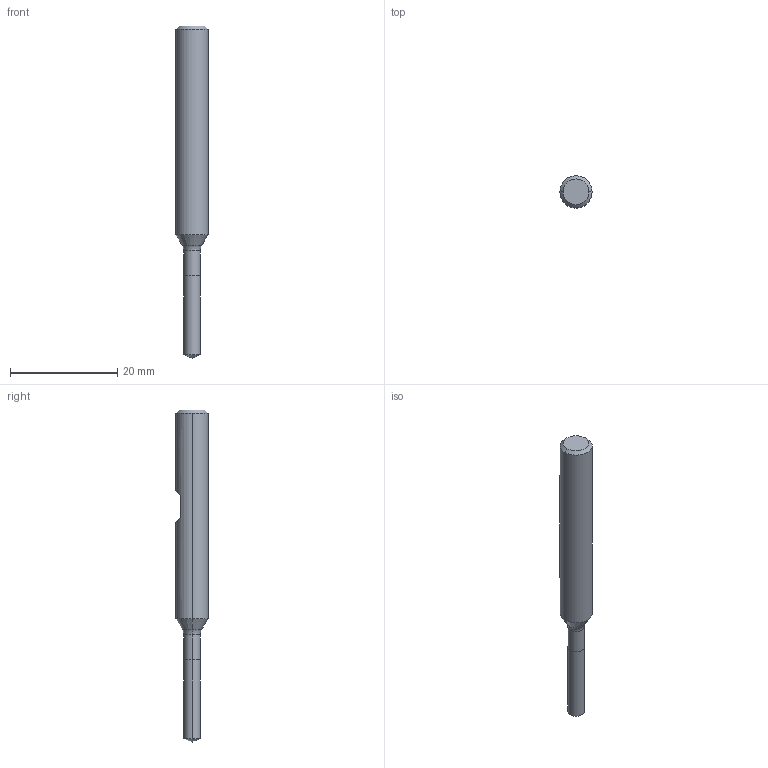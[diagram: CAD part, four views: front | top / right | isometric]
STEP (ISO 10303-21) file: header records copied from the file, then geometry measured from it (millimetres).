
FILE_DESCRIPTION (( 'STEP AP214' ), '1' );
FILE_NAME ('843.031.10_3D-model.step', '2022-02-24T02:52:13', ( '' ), ( '' ), 'SwSTEP 2.0', 'SolidWorks 2020', '' );
FILE_SCHEMA (( 'AUTOMOTIVE_DESIGN' ));
Length unit declared in the file: millimetre
Products named in the file (3): NOCUT-3D^Baugr6; 843.031.10_3D-model; CUT-3D^Baugr6
Assembly tree (2 placements, depth 2):
  843.031.10_3D-model
    CUT-3D^Baugr6
    NOCUT-3D^Baugr6
Bounding box: 6 x 6 x 62 mm (x, y, z)
Volume: 1279.3 mm3; surface area: 1013.6 mm2
Topology: 2 solids, 2 shells, 20 faces, 38 edges, 21 vertices
Faces by surface type: cone 6, cylinder 6, plane 6, torus 2
Entity records: 608 total; most frequent: DIRECTION 108, CARTESIAN_POINT 91, ORIENTED_EDGE 72, AXIS2_PLACEMENT_3D 46, EDGE_CURVE 36, EDGE_LOOP 21, VERTEX_POINT 21, FACE_OUTER_BOUND 20
